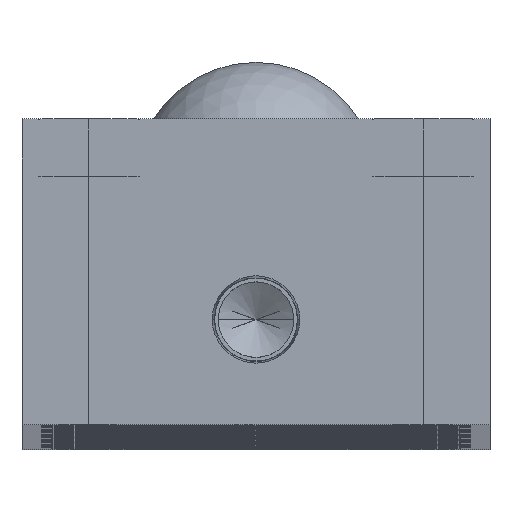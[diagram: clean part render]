
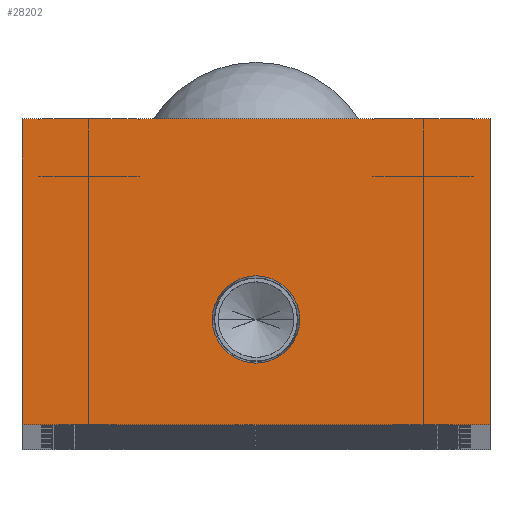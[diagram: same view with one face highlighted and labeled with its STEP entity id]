
A CAD part, top view. The second image highlights one B-rep face of the part: STEP entity #28202.
In plain terms, the highlighted planar face has unit normal (0, 0, 1).
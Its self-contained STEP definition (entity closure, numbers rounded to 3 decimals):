
#1168 = CARTESIAN_POINT ( 'NONE',  ( -24.5, 0., 0. ) ) ;
#1184 = VECTOR ( 'NONE', #22913, 1000. ) ;
#1253 = CARTESIAN_POINT ( 'NONE',  ( 0., 11., 0. ) ) ;
#1676 = FACE_OUTER_BOUND ( 'NONE', #18494, .T. ) ;
#2126 = ORIENTED_EDGE ( 'NONE', *, *, #32182, .F. ) ;
#3005 = CARTESIAN_POINT ( 'NONE',  ( 0., 11., 0. ) ) ;
#3137 = CARTESIAN_POINT ( 'NONE',  ( 24.5, 32., 0. ) ) ;
#4060 = DIRECTION ( 'NONE',  ( 1., 0., 0. ) ) ;
#5804 = DIRECTION ( 'NONE',  ( 1., 0., 0. ) ) ;
#5858 = CARTESIAN_POINT ( 'NONE',  ( 0., 0., 0. ) ) ;
#6324 = EDGE_CURVE ( 'NONE', #17650, #15063, #13021, .T. ) ;
#8504 = DIRECTION ( 'NONE',  ( 0., 0., -1. ) ) ;
#9549 = VERTEX_POINT ( 'NONE', #24305 ) ;
#11091 = CIRCLE ( 'NONE', #30996, 4.574 ) ;
#11878 = CARTESIAN_POINT ( 'NONE',  ( -24.5, 32., 0. ) ) ;
#13021 = LINE ( 'NONE', #3137, #25919 ) ;
#13376 = ORIENTED_EDGE ( 'NONE', *, *, #21336, .F. ) ;
#15063 = VERTEX_POINT ( 'NONE', #15299 ) ;
#15299 = CARTESIAN_POINT ( 'NONE',  ( 24.5, 32., 0. ) ) ;
#15924 = CARTESIAN_POINT ( 'NONE',  ( -24.5, 0., 0. ) ) ;
#16189 = VERTEX_POINT ( 'NONE', #21495 ) ;
#16272 = EDGE_CURVE ( 'NONE', #24794, #17650, #20388, .T. ) ;
#16324 = FACE_BOUND ( 'NONE', #19536, .T. ) ;
#17082 = DIRECTION ( 'NONE',  ( 1., 0., 0. ) ) ;
#17413 = AXIS2_PLACEMENT_3D ( 'NONE', #1253, #20533, #4060 ) ;
#17650 = VERTEX_POINT ( 'NONE', #32063 ) ;
#18018 = VECTOR ( 'NONE', #29736, 1000. ) ;
#18494 = EDGE_LOOP ( 'NONE', ( #30090, #32330, #28129, #24694 ) ) ;
#19536 = EDGE_LOOP ( 'NONE', ( #13376, #2126 ) ) ;
#20388 = LINE ( 'NONE', #33544, #34543 ) ;
#20533 = DIRECTION ( 'NONE',  ( 0., 0., 1. ) ) ;
#20886 = EDGE_CURVE ( 'NONE', #15063, #28799, #30453, .T. ) ;
#21336 = EDGE_CURVE ( 'NONE', #16189, #9549, #11091, .T. ) ;
#21495 = CARTESIAN_POINT ( 'NONE',  ( 4.574, 11., 0. ) ) ;
#22262 = DIRECTION ( 'NONE',  ( 0., 0., 1. ) ) ;
#22913 = DIRECTION ( 'NONE',  ( -1., 0., 0. ) ) ;
#24305 = CARTESIAN_POINT ( 'NONE',  ( -4.574, 11., 0. ) ) ;
#24694 = ORIENTED_EDGE ( 'NONE', *, *, #20886, .T. ) ;
#24794 = VERTEX_POINT ( 'NONE', #1168 ) ;
#25313 = CARTESIAN_POINT ( 'NONE',  ( -24.5, 32., 0. ) ) ;
#25919 = VECTOR ( 'NONE', #32737, 1000. ) ;
#27849 = PLANE ( 'NONE',  #29243 ) ;
#28129 = ORIENTED_EDGE ( 'NONE', *, *, #6324, .T. ) ;
#28202 = ADVANCED_FACE ( 'NONE', ( #16324, #1676 ), #27849, .F. ) ;
#28588 = EDGE_CURVE ( 'NONE', #28799, #24794, #32661, .T. ) ;
#28799 = VERTEX_POINT ( 'NONE', #25313 ) ;
#29243 = AXIS2_PLACEMENT_3D ( 'NONE', #5858, #8504, #30613 ) ;
#29736 = DIRECTION ( 'NONE',  ( 0., -1., 0. ) ) ;
#30090 = ORIENTED_EDGE ( 'NONE', *, *, #28588, .T. ) ;
#30149 = CIRCLE ( 'NONE', #17413, 4.574 ) ;
#30453 = LINE ( 'NONE', #11878, #1184 ) ;
#30613 = DIRECTION ( 'NONE',  ( -1., 0., 0. ) ) ;
#30996 = AXIS2_PLACEMENT_3D ( 'NONE', #3005, #22262, #5804 ) ;
#32063 = CARTESIAN_POINT ( 'NONE',  ( 24.5, 0., 0. ) ) ;
#32182 = EDGE_CURVE ( 'NONE', #9549, #16189, #30149, .T. ) ;
#32330 = ORIENTED_EDGE ( 'NONE', *, *, #16272, .T. ) ;
#32661 = LINE ( 'NONE', #15924, #18018 ) ;
#32737 = DIRECTION ( 'NONE',  ( 0., 1., 0. ) ) ;
#33544 = CARTESIAN_POINT ( 'NONE',  ( 24.5, 0., 0. ) ) ;
#34543 = VECTOR ( 'NONE', #17082, 1000. ) ;
